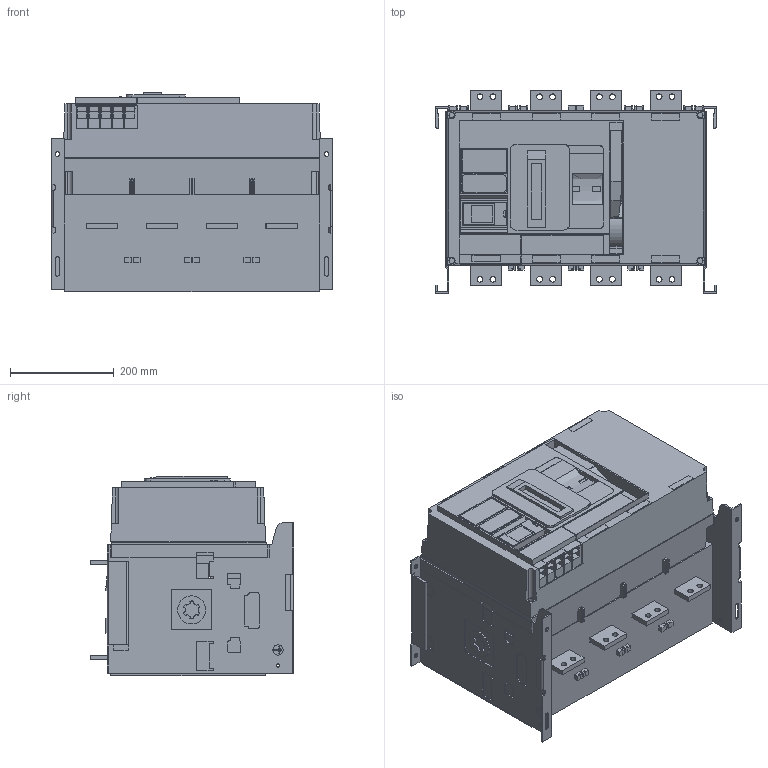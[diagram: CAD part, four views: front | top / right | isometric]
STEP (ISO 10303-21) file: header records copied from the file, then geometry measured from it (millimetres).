
FILE_DESCRIPTION((''),'2;1');
FILE_NAME('TA1AD4L16H4TPE_3D-SIMPLIFIED_ASM','2024-07-04T12:01:43',('SESA540900'),('Schneider-Electric'),'CREO PARAMETRIC BY PTC INC, 2021284','CREO PARAMETRIC BY PTC INC, 2021284','');
FILE_SCHEMA(('AP242_MANAGED_MODEL_BASED_3D_ENGINEERING_MIM_LF { 1 0 10303 442 1 1 4 }'));
Length unit declared in the file: millimetre
Products named in the file (2): PRT0001; TA1AD4L16H4TPE_3D-SIMPLIFIED_ASM
Assembly tree (1 placements, depth 2):
  TA1AD4L16H4TPE_3D-SIMPLIFIED_ASM
    PRT0001
Bounding box: 540 x 391 x 383.5 mm (x, y, z)
Volume: 53172457.7 mm3; surface area: 1863733 mm2
Topology: 1 solids, 2 shells, 1264 faces, 3621 edges, 2454 vertices
Faces by surface type: plane 953, cylinder 288, extrusion 23
Entity records: 53575 total; most frequent: CARTESIAN_POINT 7992, ORIENTED_EDGE 7242, DIRECTION 6825, EDGE_CURVE 3621, VECTOR 2841, LINE 2818, VERTEX_POINT 2454, AXIS2_PLACEMENT_3D 1992
